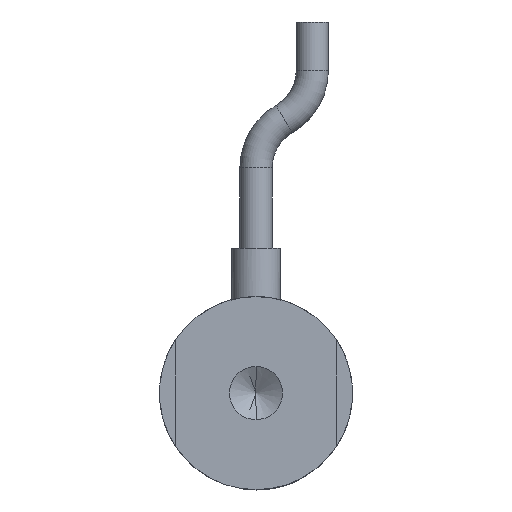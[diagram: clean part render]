
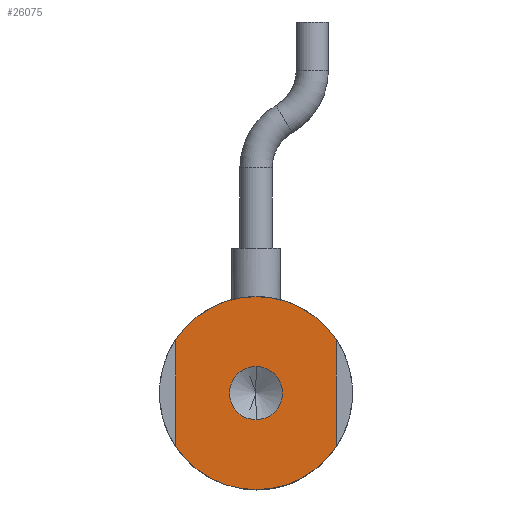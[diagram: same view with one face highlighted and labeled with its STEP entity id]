
A CAD part, front view. The second image highlights one B-rep face of the part: STEP entity #26075.
In plain terms, the highlighted planar face has unit normal (0, -1, 0).
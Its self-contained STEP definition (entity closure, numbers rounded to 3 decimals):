
#5061 = EDGE_CURVE ( 'NONE', #23881, #11262, #8025, .T. ) ;
#7075 = EDGE_CURVE ( 'NONE', #33267, #33116, #41748, .T. ) ;
#8025 = CIRCLE ( 'NONE', #40675, 6. ) ;
#8570 = CARTESIAN_POINT ( 'NONE',  ( -5., 0., 3.317 ) ) ;
#8876 = AXIS2_PLACEMENT_3D ( 'NONE', #13033, #13023, #12979 ) ;
#8919 = DIRECTION ( 'NONE',  ( 0., 0., 1. ) ) ;
#9257 = DIRECTION ( 'NONE',  ( 0., 1., 0. ) ) ;
#9923 = CARTESIAN_POINT ( 'NONE',  ( 0., 0., 0. ) ) ;
#10051 = ORIENTED_EDGE ( 'NONE', *, *, #41389, .F. ) ;
#11138 = VERTEX_POINT ( 'NONE', #15125 ) ;
#11262 = VERTEX_POINT ( 'NONE', #11791 ) ;
#11791 = CARTESIAN_POINT ( 'NONE',  ( 5., 0., 3.317 ) ) ;
#12618 = EDGE_CURVE ( 'NONE', #33116, #18438, #26037, .T. ) ;
#12692 = AXIS2_PLACEMENT_3D ( 'NONE', #33126, #32202, #31717 ) ;
#12776 = ORIENTED_EDGE ( 'NONE', *, *, #13543, .F. ) ;
#12979 = DIRECTION ( 'NONE',  ( 0., 0., 1. ) ) ;
#13023 = DIRECTION ( 'NONE',  ( 0., 1., 0. ) ) ;
#13033 = CARTESIAN_POINT ( 'NONE',  ( 0., 0., 0. ) ) ;
#13372 = AXIS2_PLACEMENT_3D ( 'NONE', #19114, #42554, #22446 ) ;
#13506 = CARTESIAN_POINT ( 'NONE',  ( 0., 0., -6. ) ) ;
#13543 = EDGE_CURVE ( 'NONE', #11138, #27766, #23358, .T. ) ;
#13621 = VECTOR ( 'NONE', #32010, 1000. ) ;
#14797 = EDGE_CURVE ( 'NONE', #32980, #23881, #19229, .T. ) ;
#15125 = CARTESIAN_POINT ( 'NONE',  ( 0., 0., 1.65 ) ) ;
#15895 = AXIS2_PLACEMENT_3D ( 'NONE', #20601, #20566, #20516 ) ;
#16253 = DIRECTION ( 'NONE',  ( 0., 0., -1. ) ) ;
#18438 = VERTEX_POINT ( 'NONE', #33764 ) ;
#19114 = CARTESIAN_POINT ( 'NONE',  ( 0., 0., 0. ) ) ;
#19133 = DIRECTION ( 'NONE',  ( 0., 0., 1. ) ) ;
#19225 = DIRECTION ( 'NONE',  ( 0., 1., 0. ) ) ;
#19229 = CIRCLE ( 'NONE', #8876, 6. ) ;
#19313 = CARTESIAN_POINT ( 'NONE',  ( 0., 0., 0. ) ) ;
#19513 = ORIENTED_EDGE ( 'NONE', *, *, #7075, .F. ) ;
#20516 = DIRECTION ( 'NONE',  ( 0., 0., 1. ) ) ;
#20566 = DIRECTION ( 'NONE',  ( 0., 1., 0. ) ) ;
#20601 = CARTESIAN_POINT ( 'NONE',  ( 0., 0., 0. ) ) ;
#21722 = EDGE_LOOP ( 'NONE', ( #23592, #32042, #19513, #36710, #33714, #42608 ) ) ;
#22446 = DIRECTION ( 'NONE',  ( 0., 0., -1. ) ) ;
#23021 = LINE ( 'NONE', #32860, #42961 ) ;
#23059 = DIRECTION ( 'NONE',  ( 0., 0., 1. ) ) ;
#23358 = CIRCLE ( 'NONE', #12692, 1.65 ) ;
#23592 = ORIENTED_EDGE ( 'NONE', *, *, #41159, .F. ) ;
#23649 = EDGE_LOOP ( 'NONE', ( #10051, #12776 ) ) ;
#23881 = VERTEX_POINT ( 'NONE', #35410 ) ;
#25305 = CARTESIAN_POINT ( 'NONE',  ( -5., 0., 0. ) ) ;
#26037 = CIRCLE ( 'NONE', #15895, 6. ) ;
#26075 = ADVANCED_FACE ( 'NONE', ( #40850, #40936 ), #33000, .F. ) ;
#27766 = VERTEX_POINT ( 'NONE', #43228 ) ;
#31362 = LINE ( 'NONE', #25305, #13621 ) ;
#31717 = DIRECTION ( 'NONE',  ( 0., 0., -1. ) ) ;
#32010 = DIRECTION ( 'NONE',  ( 0., 0., 1. ) ) ;
#32042 = ORIENTED_EDGE ( 'NONE', *, *, #12618, .F. ) ;
#32202 = DIRECTION ( 'NONE',  ( 0., -1., 0. ) ) ;
#32860 = CARTESIAN_POINT ( 'NONE',  ( 5., 0., 0. ) ) ;
#32980 = VERTEX_POINT ( 'NONE', #8570 ) ;
#33000 = PLANE ( 'NONE',  #40076 ) ;
#33116 = VERTEX_POINT ( 'NONE', #13506 ) ;
#33126 = CARTESIAN_POINT ( 'NONE',  ( 0., 0., 0. ) ) ;
#33267 = VERTEX_POINT ( 'NONE', #34951 ) ;
#33714 = ORIENTED_EDGE ( 'NONE', *, *, #5061, .F. ) ;
#33764 = CARTESIAN_POINT ( 'NONE',  ( -5., 0., -3.317 ) ) ;
#34152 = AXIS2_PLACEMENT_3D ( 'NONE', #19313, #19225, #19133 ) ;
#34951 = CARTESIAN_POINT ( 'NONE',  ( 5., 0., -3.317 ) ) ;
#35410 = CARTESIAN_POINT ( 'NONE',  ( 0., 0., 6. ) ) ;
#36106 = CIRCLE ( 'NONE', #13372, 1.65 ) ;
#36710 = ORIENTED_EDGE ( 'NONE', *, *, #40575, .F. ) ;
#39808 = CARTESIAN_POINT ( 'NONE',  ( 0., 0., 0. ) ) ;
#40076 = AXIS2_PLACEMENT_3D ( 'NONE', #39808, #43149, #23059 ) ;
#40575 = EDGE_CURVE ( 'NONE', #11262, #33267, #23021, .T. ) ;
#40675 = AXIS2_PLACEMENT_3D ( 'NONE', #9923, #9257, #8919 ) ;
#40850 = FACE_BOUND ( 'NONE', #23649, .T. ) ;
#40936 = FACE_OUTER_BOUND ( 'NONE', #21722, .T. ) ;
#41159 = EDGE_CURVE ( 'NONE', #18438, #32980, #31362, .T. ) ;
#41389 = EDGE_CURVE ( 'NONE', #27766, #11138, #36106, .T. ) ;
#41748 = CIRCLE ( 'NONE', #34152, 6. ) ;
#42554 = DIRECTION ( 'NONE',  ( 0., -1., 0. ) ) ;
#42608 = ORIENTED_EDGE ( 'NONE', *, *, #14797, .F. ) ;
#42961 = VECTOR ( 'NONE', #16253, 1000. ) ;
#43149 = DIRECTION ( 'NONE',  ( 0., 1., 0. ) ) ;
#43228 = CARTESIAN_POINT ( 'NONE',  ( 0., 0., -1.65 ) ) ;
